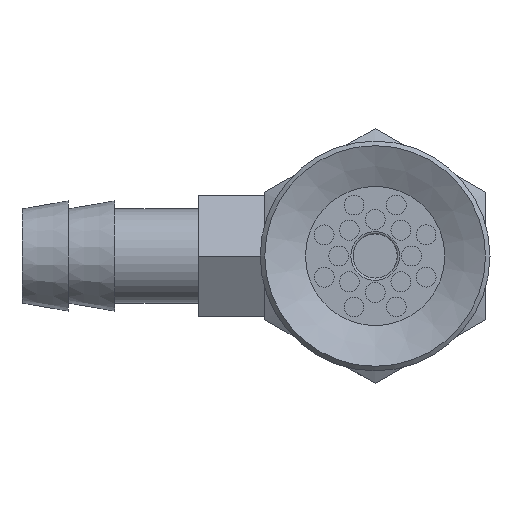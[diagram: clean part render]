
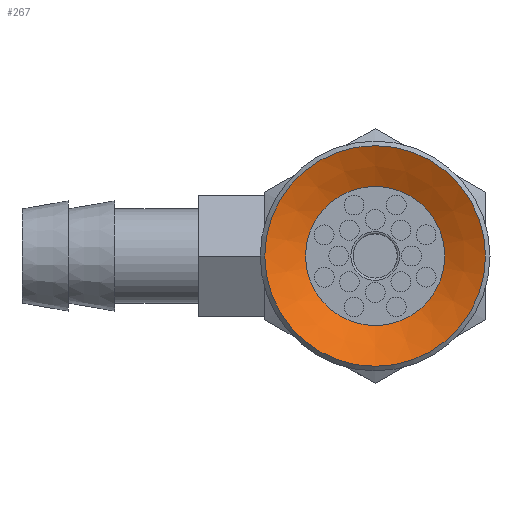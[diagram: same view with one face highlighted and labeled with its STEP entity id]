
A CAD part, front view. The second image highlights one B-rep face of the part: STEP entity #267.
In plain terms, the highlighted conical face has half-angle 64 degrees and reference radius 5 mm.
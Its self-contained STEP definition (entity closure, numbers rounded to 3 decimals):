
#267=ADVANCED_FACE('',(#475,#476),#477,.F.);
#475=FACE_BOUND('',#762,.T.);
#476=FACE_OUTER_BOUND('',#763,.T.);
#477=CONICAL_SURFACE('',#764,5.0,1.117);
#762=EDGE_LOOP('',(#1263));
#763=EDGE_LOOP('',(#1264));
#764=AXIS2_PLACEMENT_3D('',#1265,#1266,#1267);
#1263=ORIENTED_EDGE('',*,*,#1598,.T.);
#1264=ORIENTED_EDGE('',*,*,#1599,.F.);
#1265=CARTESIAN_POINT('',(0.0,0.,0.));
#1266=DIRECTION('',(0.0,0.,-1.0));
#1267=DIRECTION('',(0.0,1.0,0.));
#1598=EDGE_CURVE('',#1823,#1823,#1824,.T.);
#1599=EDGE_CURVE('',#1825,#1825,#1826,.T.);
#1823=VERTEX_POINT('',#2377);
#1824=CIRCLE('',#2378,3.155);
#1825=VERTEX_POINT('',#2379);
#1826=CIRCLE('',#2380,5.0);
#2377=CARTESIAN_POINT('',(0.0,-3.155,0.9));
#2378=AXIS2_PLACEMENT_3D('',#2638,#2639,#2640);
#2379=CARTESIAN_POINT('',(0.0,-5.0,0.));
#2380=AXIS2_PLACEMENT_3D('',#2641,#2642,#2643);
#2638=CARTESIAN_POINT('',(0.0,0.,0.9));
#2639=DIRECTION('',(0.0,0.,1.0));
#2640=DIRECTION('',(0.0,-1.0,0.));
#2641=CARTESIAN_POINT('',(0.0,0.,0.));
#2642=DIRECTION('',(0.0,0.,1.0));
#2643=DIRECTION('',(0.0,-1.0,0.));
